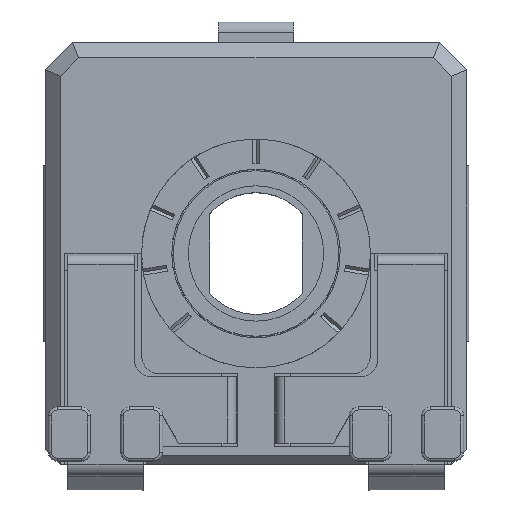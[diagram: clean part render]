
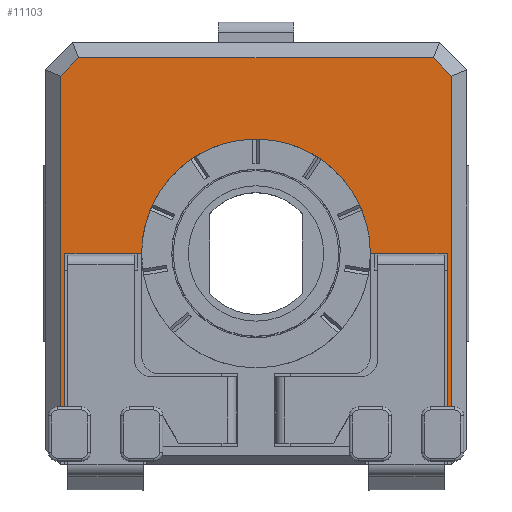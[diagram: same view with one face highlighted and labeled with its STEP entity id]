
A CAD part, top view. The second image highlights one B-rep face of the part: STEP entity #11103.
In plain terms, the highlighted planar face has unit normal (0, 0, 1).
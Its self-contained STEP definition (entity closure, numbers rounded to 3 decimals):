
#363=CIRCLE('',#11914,3.8);
#970=FACE_OUTER_BOUND('',#1555,.T.);
#1555=EDGE_LOOP('',(#9360,#9361,#9362,#9363,#9364,#9365,#9366,#9367,#9368,
#9369,#9370,#9371));
#1993=LINE('',#15911,#3253);
#2061=LINE('',#16164,#3321);
#2298=LINE('',#16800,#3558);
#2301=LINE('',#16805,#3561);
#2526=LINE('',#17365,#3786);
#2559=LINE('',#17492,#3819);
#2781=LINE('',#18036,#4041);
#2782=LINE('',#18039,#4042);
#2783=LINE('',#18040,#4043);
#2784=LINE('',#18043,#4044);
#2785=LINE('',#18044,#4045);
#3253=VECTOR('',#12792,10.);
#3321=VECTOR('',#13074,10.);
#3558=VECTOR('',#13601,10.);
#3561=VECTOR('',#13606,10.);
#3786=VECTOR('',#13979,10.);
#3819=VECTOR('',#14054,10.);
#4041=VECTOR('',#14572,10.);
#4042=VECTOR('',#14575,10.);
#4043=VECTOR('',#14576,10.);
#4044=VECTOR('',#14579,10.);
#4045=VECTOR('',#14580,10.);
#4446=VERTEX_POINT('',#15719);
#4501=VERTEX_POINT('',#15910);
#4578=VERTEX_POINT('',#16161);
#4579=VERTEX_POINT('',#16163);
#4626=VERTEX_POINT('',#16317);
#4627=VERTEX_POINT('',#16319);
#4772=VERTEX_POINT('',#16796);
#4773=VERTEX_POINT('',#16798);
#4938=VERTEX_POINT('',#17361);
#4964=VERTEX_POINT('',#17491);
#5095=VERTEX_POINT('',#18038);
#5096=VERTEX_POINT('',#18042);
#5620=EDGE_CURVE('',#4501,#4446,#1993,.T.);
#5746=EDGE_CURVE('',#4579,#4578,#2061,.T.);
#6036=EDGE_CURVE('',#4773,#4772,#2298,.T.);
#6039=EDGE_CURVE('',#4772,#4578,#2301,.T.);
#6285=EDGE_CURVE('',#4501,#4938,#2526,.T.);
#6330=EDGE_CURVE('',#4938,#4964,#2559,.T.);
#6579=EDGE_CURVE('',#4964,#4773,#2781,.T.);
#6580=EDGE_CURVE('',#4446,#5095,#2782,.T.);
#6581=EDGE_CURVE('',#5095,#4627,#2783,.T.);
#6582=EDGE_CURVE('',#4627,#4626,#363,.T.);
#6583=EDGE_CURVE('',#4626,#5096,#2784,.T.);
#6584=EDGE_CURVE('',#5096,#4579,#2785,.T.);
#9360=ORIENTED_EDGE('',*,*,#5620,.T.);
#9361=ORIENTED_EDGE('',*,*,#6580,.T.);
#9362=ORIENTED_EDGE('',*,*,#6581,.T.);
#9363=ORIENTED_EDGE('',*,*,#6582,.T.);
#9364=ORIENTED_EDGE('',*,*,#6583,.T.);
#9365=ORIENTED_EDGE('',*,*,#6584,.T.);
#9366=ORIENTED_EDGE('',*,*,#5746,.T.);
#9367=ORIENTED_EDGE('',*,*,#6039,.F.);
#9368=ORIENTED_EDGE('',*,*,#6036,.F.);
#9369=ORIENTED_EDGE('',*,*,#6579,.F.);
#9370=ORIENTED_EDGE('',*,*,#6330,.F.);
#9371=ORIENTED_EDGE('',*,*,#6285,.F.);
#10324=PLANE('',#11913);
#11103=ADVANCED_FACE('',(#970),#10324,.T.);
#11913=AXIS2_PLACEMENT_3D('',#18037,#14573,#14574);
#11914=AXIS2_PLACEMENT_3D('',#18041,#14577,#14578);
#12792=DIRECTION('',(1.,0.,0.));
#13074=DIRECTION('',(1.,0.,0.));
#13601=DIRECTION('',(0.707,-0.707,0.));
#13606=DIRECTION('',(0.,-1.,0.));
#13979=DIRECTION('',(0.,1.,0.));
#14054=DIRECTION('',(0.707,0.707,0.));
#14572=DIRECTION('',(1.,0.,0.));
#14573=DIRECTION('center_axis',(0.,0.,1.));
#14574=DIRECTION('ref_axis',(1.,0.,0.));
#14575=DIRECTION('',(0.,1.,0.));
#14576=DIRECTION('',(1.,0.,0.));
#14577=DIRECTION('center_axis',(0.,0.,-1.));
#14578=DIRECTION('ref_axis',(-1.,0.,0.));
#14579=DIRECTION('',(1.,0.,0.));
#14580=DIRECTION('',(0.,-1.,0.));
#15719=CARTESIAN_POINT('',(-13.817,-7.998,4.4));
#15910=CARTESIAN_POINT('',(-13.967,-7.998,4.4));
#15911=CARTESIAN_POINT('',(-10.217,-7.998,4.4));
#16161=CARTESIAN_POINT('',(-0.967,-7.998,4.4));
#16163=CARTESIAN_POINT('',(-1.117,-7.998,4.4));
#16164=CARTESIAN_POINT('',(-4.017,-7.998,4.4));
#16317=CARTESIAN_POINT('',(-3.667,-2.898,4.4));
#16319=CARTESIAN_POINT('',(-11.267,-2.898,4.4));
#16796=CARTESIAN_POINT('',(-0.967,2.994,4.4));
#16798=CARTESIAN_POINT('',(-1.574,3.602,4.4));
#16800=CARTESIAN_POINT('',(-1.271,3.298,4.4));
#16805=CARTESIAN_POINT('',(-0.967,0.602,4.4));
#17361=CARTESIAN_POINT('',(-13.967,2.994,4.4));
#17365=CARTESIAN_POINT('',(-13.967,-6.398,4.4));
#17491=CARTESIAN_POINT('',(-13.36,3.602,4.4));
#17492=CARTESIAN_POINT('',(-13.663,3.298,4.4));
#18036=CARTESIAN_POINT('',(-10.967,3.602,4.4));
#18037=CARTESIAN_POINT('Origin',(-7.467,-2.898,4.4));
#18038=CARTESIAN_POINT('',(-13.817,-2.898,4.4));
#18039=CARTESIAN_POINT('',(-13.817,-3.173,4.4));
#18040=CARTESIAN_POINT('',(-9.442,-2.898,4.4));
#18041=CARTESIAN_POINT('Origin',(-7.467,-2.898,4.4));
#18042=CARTESIAN_POINT('',(-1.117,-2.898,4.4));
#18043=CARTESIAN_POINT('',(-5.492,-2.898,4.4));
#18044=CARTESIAN_POINT('',(-1.117,-2.898,4.4));
